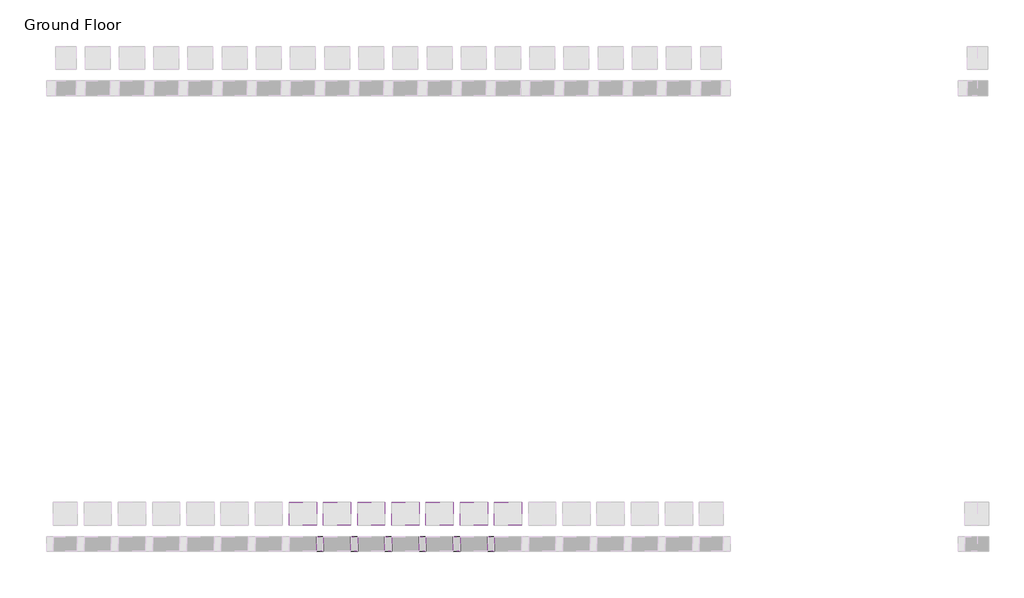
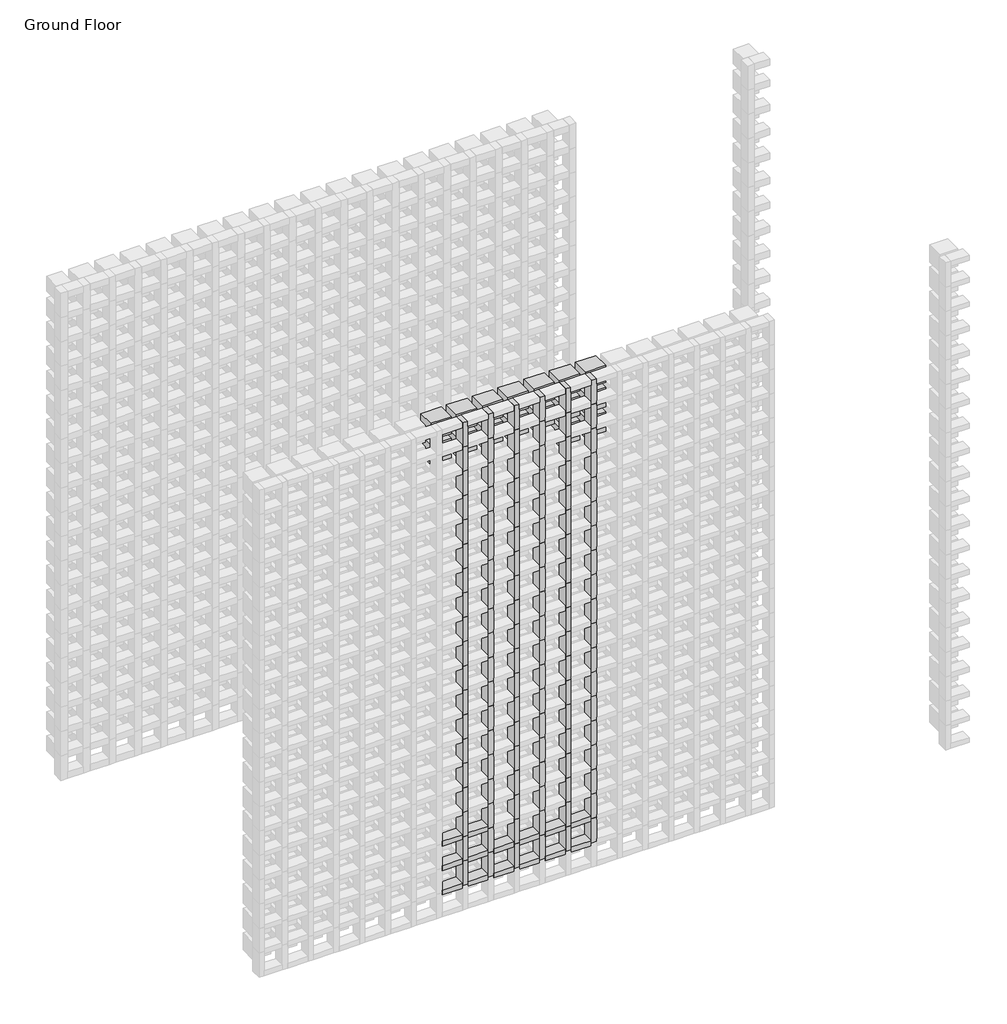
# One storey, part 69 of 350: 128 members, 16 plates.
"""IFC4 building model written with IfcOpenShell, lengths in millimetres."""

from ifc_helpers import new_model, si_unit, origin, place, context, project, spatial, transform, mapped, element, save
from components import rectangular_mullion_5b501421, rectangular_mullion_f28dea33, empty_system_panel_empty_a57e421f, empty_system_panel_empty_fe50b430

model = new_model("IFC4")

# Units and contexts
model_context = context("Model", 3, world=origin())
ifc_project = project(units=[si_unit("LENGTHUNIT", "METRE", prefix="MILLI")], contexts=[model_context])

# Site, building, storey
site = spatial("IfcSite", under=ifc_project)
building = spatial("IfcBuilding", under=site)
storey = spatial("IfcBuildingStorey", under=building, Name="Ground Floor", Elevation=0.0)

# Members
placement = place(None, origin())
rectangular_mullion_shape = rectangular_mullion_5b501421(model_context)
element("IfcMember", 1, ObjectType="Rectangular Mullion : Batten_Timber_Modinex_Austratus_Grid_Fascia_30x65_Hemlock", at=placement, inside=storey, context=model_context, shape_type="MappedRepresentation", body=[
    mapped(rectangular_mullion_shape, transform((11116.4361642, 38968.2978302, 150.0), x_axis=(1.0, 0.0, 0.0), y_axis=(0.0, -1.0, 0.0), z_axis=(0.0, 0.0, -1.0))),
])
element("IfcMember", 2, ObjectType="Rectangular Mullion : Batten_Timber_Modinex_Austratus_Grid_Fascia_30x65_Hemlock", at=placement, inside=storey, context=model_context, shape_type="MappedRepresentation", body=[
    mapped(rectangular_mullion_shape, transform((11116.4361642, 38968.2978302, 300.0), x_axis=(1.0, 0.0, 0.0), y_axis=(0.0, -1.0, 0.0), z_axis=(0.0, 0.0, -1.0))),
])
element("IfcMember", 3, ObjectType="Rectangular Mullion : Batten_Timber_Modinex_Austratus_Grid_Fascia_30x65_Hemlock", at=placement, inside=storey, context=model_context, shape_type="MappedRepresentation", body=[
    mapped(rectangular_mullion_shape, transform((11116.4361642, 38968.2978302, 450.0), x_axis=(1.0, 0.0, 0.0), y_axis=(0.0, -1.0, 0.0), z_axis=(0.0, 0.0, -1.0))),
])
element("IfcMember", 4, ObjectType="Rectangular Mullion : Batten_Timber_Modinex_Austratus_Grid_Fascia_30x65_Hemlock", at=placement, inside=storey, context=model_context, shape_type="MappedRepresentation", body=[
    mapped(rectangular_mullion_shape, transform((11116.4361642, 38968.2978302, 600.0), x_axis=(1.0, 0.0, 0.0), y_axis=(0.0, -1.0, 0.0), z_axis=(0.0, 0.0, -1.0))),
])
element("IfcMember", 5, ObjectType="Rectangular Mullion : Batten_Timber_Modinex_Austratus_Grid_Fascia_30x65_Hemlock", at=placement, inside=storey, context=model_context, shape_type="MappedRepresentation", body=[
    mapped(rectangular_mullion_shape, transform((11116.4361642, 38968.2978302, 750.0), x_axis=(1.0, 0.0, 0.0), y_axis=(0.0, -1.0, 0.0), z_axis=(0.0, 0.0, -1.0))),
])
element("IfcMember", 6, ObjectType="Rectangular Mullion : Batten_Timber_Modinex_Austratus_Grid_Fascia_30x65_Hemlock", at=placement, inside=storey, context=model_context, shape_type="MappedRepresentation", body=[
    mapped(rectangular_mullion_shape, transform((11116.4361642, 38968.2978302, 900.0), x_axis=(1.0, 0.0, 0.0), y_axis=(0.0, -1.0, 0.0), z_axis=(0.0, 0.0, -1.0))),
])
element("IfcMember", 7, ObjectType="Rectangular Mullion : Batten_Timber_Modinex_Austratus_Grid_Fascia_30x65_Hemlock", at=placement, inside=storey, context=model_context, shape_type="MappedRepresentation", body=[
    mapped(rectangular_mullion_shape, transform((11116.4361642, 38968.2978302, 1050.0), x_axis=(1.0, 0.0, 0.0), y_axis=(0.0, -1.0, 0.0), z_axis=(0.0, 0.0, -1.0))),
])
element("IfcMember", 8, ObjectType="Rectangular Mullion : Batten_Timber_Modinex_Austratus_Grid_Fascia_30x65_Hemlock", at=placement, inside=storey, context=model_context, shape_type="MappedRepresentation", body=[
    mapped(rectangular_mullion_shape, transform((11116.4361642, 38968.2978302, 1200.0), x_axis=(1.0, 0.0, 0.0), y_axis=(0.0, -1.0, 0.0), z_axis=(0.0, 0.0, -1.0))),
])
element("IfcMember", 9, ObjectType="Rectangular Mullion : Batten_Timber_Modinex_Austratus_Grid_Fascia_30x65_Hemlock", at=placement, inside=storey, context=model_context, shape_type="MappedRepresentation", body=[
    mapped(rectangular_mullion_shape, transform((11116.4361642, 38968.2978302, 1350.0), x_axis=(1.0, 0.0, 0.0), y_axis=(0.0, -1.0, 0.0), z_axis=(0.0, 0.0, -1.0))),
])
element("IfcMember", 10, ObjectType="Rectangular Mullion : Batten_Timber_Modinex_Austratus_Grid_Fascia_30x65_Hemlock", at=placement, inside=storey, context=model_context, shape_type="MappedRepresentation", body=[
    mapped(rectangular_mullion_shape, transform((11116.4361642, 38968.2978302, 1500.0), x_axis=(1.0, 0.0, 0.0), y_axis=(0.0, -1.0, 0.0), z_axis=(0.0, 0.0, -1.0))),
])
element("IfcMember", 11, ObjectType="Rectangular Mullion : Batten_Timber_Modinex_Austratus_Grid_Fascia_30x65_Hemlock", at=placement, inside=storey, context=model_context, shape_type="MappedRepresentation", body=[
    mapped(rectangular_mullion_shape, transform((11116.4361642, 38968.2978302, 1650.0), x_axis=(1.0, 0.0, 0.0), y_axis=(0.0, -1.0, 0.0), z_axis=(0.0, 0.0, -1.0))),
])
element("IfcMember", 12, ObjectType="Rectangular Mullion : Batten_Timber_Modinex_Austratus_Grid_Fascia_30x65_Hemlock", at=placement, inside=storey, context=model_context, shape_type="MappedRepresentation", body=[
    mapped(rectangular_mullion_shape, transform((11116.4361642, 38968.2978302, 1800.0), x_axis=(1.0, 0.0, 0.0), y_axis=(0.0, -1.0, 0.0), z_axis=(0.0, 0.0, -1.0))),
])
element("IfcMember", 13, ObjectType="Rectangular Mullion : Batten_Timber_Modinex_Austratus_Grid_Fascia_30x65_Hemlock", at=placement, inside=storey, context=model_context, shape_type="MappedRepresentation", body=[
    mapped(rectangular_mullion_shape, transform((11116.4361642, 38968.2978302, 1950.0), x_axis=(1.0, 0.0, 0.0), y_axis=(0.0, -1.0, 0.0), z_axis=(0.0, 0.0, -1.0))),
])
element("IfcMember", 14, ObjectType="Rectangular Mullion : Batten_Timber_Modinex_Austratus_Grid_Fascia_30x65_Hemlock", at=placement, inside=storey, context=model_context, shape_type="MappedRepresentation", body=[
    mapped(rectangular_mullion_shape, transform((11116.4361642, 38968.2978302, 2100.0), x_axis=(1.0, 0.0, 0.0), y_axis=(0.0, -1.0, 0.0), z_axis=(0.0, 0.0, -1.0))),
])
element("IfcMember", 15, ObjectType="Rectangular Mullion : Batten_Timber_Modinex_Austratus_Grid_Fascia_30x65_Hemlock", at=placement, inside=storey, context=model_context, shape_type="MappedRepresentation", body=[
    mapped(rectangular_mullion_shape, transform((11116.4361642, 38968.2978302, 2250.0), x_axis=(1.0, 0.0, 0.0), y_axis=(0.0, -1.0, 0.0), z_axis=(0.0, 0.0, -1.0))),
])
element("IfcMember", 16, ObjectType="Rectangular Mullion : Batten_Timber_Modinex_Austratus_Grid_Fascia_30x65_Hemlock", at=placement, inside=storey, context=model_context, shape_type="MappedRepresentation", body=[
    mapped(rectangular_mullion_shape, transform((11116.4361642, 38968.2978302, 2400.0), x_axis=(1.0, 0.0, 0.0), y_axis=(0.0, -1.0, 0.0), z_axis=(0.0, 0.0, -1.0))),
])
element("IfcMember", 17, ObjectType="Rectangular Mullion : Batten_Timber_Modinex_Austratus_Grid_Fascia_30x65_Hemlock", at=placement, inside=storey, context=model_context, shape_type="MappedRepresentation", body=[
    mapped(rectangular_mullion_shape, transform((11116.4361642, 38968.2978302, 2550.0), x_axis=(1.0, 0.0, 0.0), y_axis=(0.0, -1.0, 0.0), z_axis=(0.0, 0.0, -1.0))),
])
element("IfcMember", 18, ObjectType="Rectangular Mullion : Batten_Timber_Modinex_Austratus_Grid_Fascia_30x65_Hemlock", at=placement, inside=storey, context=model_context, shape_type="MappedRepresentation", body=[
    mapped(rectangular_mullion_shape, transform((11116.4361642, 38968.2978302, 2700.0), x_axis=(1.0, 0.0, 0.0), y_axis=(0.0, -1.0, 0.0), z_axis=(0.0, 0.0, -1.0))),
])
element("IfcMember", 19, ObjectType="Rectangular Mullion : Batten_Timber_Modinex_Austratus_Grid_Fascia_30x65_Hemlock", at=placement, inside=storey, context=model_context, shape_type="MappedRepresentation", body=[
    mapped(rectangular_mullion_shape, transform((11266.4361642, 38968.2978302, 150.0), x_axis=(1.0, 0.0, 0.0), y_axis=(0.0, -1.0, 0.0), z_axis=(0.0, 0.0, -1.0))),
])
element("IfcMember", 20, ObjectType="Rectangular Mullion : Batten_Timber_Modinex_Austratus_Grid_Fascia_30x65_Hemlock", at=placement, inside=storey, context=model_context, shape_type="MappedRepresentation", body=[
    mapped(rectangular_mullion_shape, transform((11266.4361642, 38968.2978302, 300.0), x_axis=(1.0, 0.0, 0.0), y_axis=(0.0, -1.0, 0.0), z_axis=(0.0, 0.0, -1.0))),
])
element("IfcMember", 21, ObjectType="Rectangular Mullion : Batten_Timber_Modinex_Austratus_Grid_Fascia_30x65_Hemlock", at=placement, inside=storey, context=model_context, shape_type="MappedRepresentation", body=[
    mapped(rectangular_mullion_shape, transform((11266.4361642, 38968.2978302, 450.0), x_axis=(1.0, 0.0, 0.0), y_axis=(0.0, -1.0, 0.0), z_axis=(0.0, 0.0, -1.0))),
])
element("IfcMember", 22, ObjectType="Rectangular Mullion : Batten_Timber_Modinex_Austratus_Grid_Fascia_30x65_Hemlock", at=placement, inside=storey, context=model_context, shape_type="MappedRepresentation", body=[
    mapped(rectangular_mullion_shape, transform((11266.4361642, 38968.2978302, 600.0), x_axis=(1.0, 0.0, 0.0), y_axis=(0.0, -1.0, 0.0), z_axis=(0.0, 0.0, -1.0))),
])
element("IfcMember", 23, ObjectType="Rectangular Mullion : Batten_Timber_Modinex_Austratus_Grid_Fascia_30x65_Hemlock", at=placement, inside=storey, context=model_context, shape_type="MappedRepresentation", body=[
    mapped(rectangular_mullion_shape, transform((11266.4361642, 38968.2978302, 750.0), x_axis=(1.0, 0.0, 0.0), y_axis=(0.0, -1.0, 0.0), z_axis=(0.0, 0.0, -1.0))),
])
element("IfcMember", 24, ObjectType="Rectangular Mullion : Batten_Timber_Modinex_Austratus_Grid_Fascia_30x65_Hemlock", at=placement, inside=storey, context=model_context, shape_type="MappedRepresentation", body=[
    mapped(rectangular_mullion_shape, transform((11266.4361642, 38968.2978302, 900.0), x_axis=(1.0, 0.0, 0.0), y_axis=(0.0, -1.0, 0.0), z_axis=(0.0, 0.0, -1.0))),
])
element("IfcMember", 25, ObjectType="Rectangular Mullion : Batten_Timber_Modinex_Austratus_Grid_Fascia_30x65_Hemlock", at=placement, inside=storey, context=model_context, shape_type="MappedRepresentation", body=[
    mapped(rectangular_mullion_shape, transform((11266.4361642, 38968.2978302, 1050.0), x_axis=(1.0, 0.0, 0.0), y_axis=(0.0, -1.0, 0.0), z_axis=(0.0, 0.0, -1.0))),
])
element("IfcMember", 26, ObjectType="Rectangular Mullion : Batten_Timber_Modinex_Austratus_Grid_Fascia_30x65_Hemlock", at=placement, inside=storey, context=model_context, shape_type="MappedRepresentation", body=[
    mapped(rectangular_mullion_shape, transform((11266.4361642, 38968.2978302, 1200.0), x_axis=(1.0, 0.0, 0.0), y_axis=(0.0, -1.0, 0.0), z_axis=(0.0, 0.0, -1.0))),
])
element("IfcMember", 27, ObjectType="Rectangular Mullion : Batten_Timber_Modinex_Austratus_Grid_Fascia_30x65_Hemlock", at=placement, inside=storey, context=model_context, shape_type="MappedRepresentation", body=[
    mapped(rectangular_mullion_shape, transform((11266.4361642, 38968.2978302, 1350.0), x_axis=(1.0, 0.0, 0.0), y_axis=(0.0, -1.0, 0.0), z_axis=(0.0, 0.0, -1.0))),
])
element("IfcMember", 28, ObjectType="Rectangular Mullion : Batten_Timber_Modinex_Austratus_Grid_Fascia_30x65_Hemlock", at=placement, inside=storey, context=model_context, shape_type="MappedRepresentation", body=[
    mapped(rectangular_mullion_shape, transform((11266.4361642, 38968.2978302, 1500.0), x_axis=(1.0, 0.0, 0.0), y_axis=(0.0, -1.0, 0.0), z_axis=(0.0, 0.0, -1.0))),
])
element("IfcMember", 29, ObjectType="Rectangular Mullion : Batten_Timber_Modinex_Austratus_Grid_Fascia_30x65_Hemlock", at=placement, inside=storey, context=model_context, shape_type="MappedRepresentation", body=[
    mapped(rectangular_mullion_shape, transform((11266.4361642, 38968.2978302, 1650.0), x_axis=(1.0, 0.0, 0.0), y_axis=(0.0, -1.0, 0.0), z_axis=(0.0, 0.0, -1.0))),
])
element("IfcMember", 30, ObjectType="Rectangular Mullion : Batten_Timber_Modinex_Austratus_Grid_Fascia_30x65_Hemlock", at=placement, inside=storey, context=model_context, shape_type="MappedRepresentation", body=[
    mapped(rectangular_mullion_shape, transform((11266.4361642, 38968.2978302, 1800.0), x_axis=(1.0, 0.0, 0.0), y_axis=(0.0, -1.0, 0.0), z_axis=(0.0, 0.0, -1.0))),
])
element("IfcMember", 31, ObjectType="Rectangular Mullion : Batten_Timber_Modinex_Austratus_Grid_Fascia_30x65_Hemlock", at=placement, inside=storey, context=model_context, shape_type="MappedRepresentation", body=[
    mapped(rectangular_mullion_shape, transform((11266.4361642, 38968.2978302, 1950.0), x_axis=(1.0, 0.0, 0.0), y_axis=(0.0, -1.0, 0.0), z_axis=(0.0, 0.0, -1.0))),
])
element("IfcMember", 32, ObjectType="Rectangular Mullion : Batten_Timber_Modinex_Austratus_Grid_Fascia_30x65_Hemlock", at=placement, inside=storey, context=model_context, shape_type="MappedRepresentation", body=[
    mapped(rectangular_mullion_shape, transform((11266.4361642, 38968.2978302, 2100.0), x_axis=(1.0, 0.0, 0.0), y_axis=(0.0, -1.0, 0.0), z_axis=(0.0, 0.0, -1.0))),
])
element("IfcMember", 33, ObjectType="Rectangular Mullion : Batten_Timber_Modinex_Austratus_Grid_Fascia_30x65_Hemlock", at=placement, inside=storey, context=model_context, shape_type="MappedRepresentation", body=[
    mapped(rectangular_mullion_shape, transform((11266.4361642, 38968.2978302, 2250.0), x_axis=(1.0, 0.0, 0.0), y_axis=(0.0, -1.0, 0.0), z_axis=(0.0, 0.0, -1.0))),
])
element("IfcMember", 34, ObjectType="Rectangular Mullion : Batten_Timber_Modinex_Austratus_Grid_Fascia_30x65_Hemlock", at=placement, inside=storey, context=model_context, shape_type="MappedRepresentation", body=[
    mapped(rectangular_mullion_shape, transform((11266.4361642, 38968.2978302, 2400.0), x_axis=(1.0, 0.0, 0.0), y_axis=(0.0, -1.0, 0.0), z_axis=(0.0, 0.0, -1.0))),
])
element("IfcMember", 35, ObjectType="Rectangular Mullion : Batten_Timber_Modinex_Austratus_Grid_Fascia_30x65_Hemlock", at=placement, inside=storey, context=model_context, shape_type="MappedRepresentation", body=[
    mapped(rectangular_mullion_shape, transform((11266.4361642, 38968.2978302, 2550.0), x_axis=(1.0, 0.0, 0.0), y_axis=(0.0, -1.0, 0.0), z_axis=(0.0, 0.0, -1.0))),
])
element("IfcMember", 36, ObjectType="Rectangular Mullion : Batten_Timber_Modinex_Austratus_Grid_Fascia_30x65_Hemlock", at=placement, inside=storey, context=model_context, shape_type="MappedRepresentation", body=[
    mapped(rectangular_mullion_shape, transform((11266.4361642, 38968.2978302, 2700.0), x_axis=(1.0, 0.0, 0.0), y_axis=(0.0, -1.0, 0.0), z_axis=(0.0, 0.0, -1.0))),
])
element("IfcMember", 37, ObjectType="Rectangular Mullion : Batten_Timber_Modinex_Austratus_Grid_Fascia_30x65_Hemlock", at=placement, inside=storey, context=model_context, shape_type="MappedRepresentation", body=[
    mapped(rectangular_mullion_shape, transform((11416.4361642, 38968.2978302, 150.0), x_axis=(1.0, 0.0, 0.0), y_axis=(0.0, -1.0, 0.0), z_axis=(0.0, 0.0, -1.0))),
])
element("IfcMember", 38, ObjectType="Rectangular Mullion : Batten_Timber_Modinex_Austratus_Grid_Fascia_30x65_Hemlock", at=placement, inside=storey, context=model_context, shape_type="MappedRepresentation", body=[
    mapped(rectangular_mullion_shape, transform((11416.4361642, 38968.2978302, 300.0), x_axis=(1.0, 0.0, 0.0), y_axis=(0.0, -1.0, 0.0), z_axis=(0.0, 0.0, -1.0))),
])
element("IfcMember", 39, ObjectType="Rectangular Mullion : Batten_Timber_Modinex_Austratus_Grid_Fascia_30x65_Hemlock", at=placement, inside=storey, context=model_context, shape_type="MappedRepresentation", body=[
    mapped(rectangular_mullion_shape, transform((11416.4361642, 38968.2978302, 450.0), x_axis=(1.0, 0.0, 0.0), y_axis=(0.0, -1.0, 0.0), z_axis=(0.0, 0.0, -1.0))),
])
element("IfcMember", 40, ObjectType="Rectangular Mullion : Batten_Timber_Modinex_Austratus_Grid_Fascia_30x65_Hemlock", at=placement, inside=storey, context=model_context, shape_type="MappedRepresentation", body=[
    mapped(rectangular_mullion_shape, transform((11416.4361642, 38968.2978302, 600.0), x_axis=(1.0, 0.0, 0.0), y_axis=(0.0, -1.0, 0.0), z_axis=(0.0, 0.0, -1.0))),
])
element("IfcMember", 41, ObjectType="Rectangular Mullion : Batten_Timber_Modinex_Austratus_Grid_Fascia_30x65_Hemlock", at=placement, inside=storey, context=model_context, shape_type="MappedRepresentation", body=[
    mapped(rectangular_mullion_shape, transform((11416.4361642, 38968.2978302, 750.0), x_axis=(1.0, 0.0, 0.0), y_axis=(0.0, -1.0, 0.0), z_axis=(0.0, 0.0, -1.0))),
])
element("IfcMember", 42, ObjectType="Rectangular Mullion : Batten_Timber_Modinex_Austratus_Grid_Fascia_30x65_Hemlock", at=placement, inside=storey, context=model_context, shape_type="MappedRepresentation", body=[
    mapped(rectangular_mullion_shape, transform((11416.4361642, 38968.2978302, 900.0), x_axis=(1.0, 0.0, 0.0), y_axis=(0.0, -1.0, 0.0), z_axis=(0.0, 0.0, -1.0))),
])
element("IfcMember", 43, ObjectType="Rectangular Mullion : Batten_Timber_Modinex_Austratus_Grid_Fascia_30x65_Hemlock", at=placement, inside=storey, context=model_context, shape_type="MappedRepresentation", body=[
    mapped(rectangular_mullion_shape, transform((11416.4361642, 38968.2978302, 1050.0), x_axis=(1.0, 0.0, 0.0), y_axis=(0.0, -1.0, 0.0), z_axis=(0.0, 0.0, -1.0))),
])
element("IfcMember", 44, ObjectType="Rectangular Mullion : Batten_Timber_Modinex_Austratus_Grid_Fascia_30x65_Hemlock", at=placement, inside=storey, context=model_context, shape_type="MappedRepresentation", body=[
    mapped(rectangular_mullion_shape, transform((11416.4361642, 38968.2978302, 1200.0), x_axis=(1.0, 0.0, 0.0), y_axis=(0.0, -1.0, 0.0), z_axis=(0.0, 0.0, -1.0))),
])
element("IfcMember", 45, ObjectType="Rectangular Mullion : Batten_Timber_Modinex_Austratus_Grid_Fascia_30x65_Hemlock", at=placement, inside=storey, context=model_context, shape_type="MappedRepresentation", body=[
    mapped(rectangular_mullion_shape, transform((11416.4361642, 38968.2978302, 1350.0), x_axis=(1.0, 0.0, 0.0), y_axis=(0.0, -1.0, 0.0), z_axis=(0.0, 0.0, -1.0))),
])
element("IfcMember", 46, ObjectType="Rectangular Mullion : Batten_Timber_Modinex_Austratus_Grid_Fascia_30x65_Hemlock", at=placement, inside=storey, context=model_context, shape_type="MappedRepresentation", body=[
    mapped(rectangular_mullion_shape, transform((11416.4361642, 38968.2978302, 1500.0), x_axis=(1.0, 0.0, 0.0), y_axis=(0.0, -1.0, 0.0), z_axis=(0.0, 0.0, -1.0))),
])
element("IfcMember", 47, ObjectType="Rectangular Mullion : Batten_Timber_Modinex_Austratus_Grid_Fascia_30x65_Hemlock", at=placement, inside=storey, context=model_context, shape_type="MappedRepresentation", body=[
    mapped(rectangular_mullion_shape, transform((11416.4361642, 38968.2978302, 1650.0), x_axis=(1.0, 0.0, 0.0), y_axis=(0.0, -1.0, 0.0), z_axis=(0.0, 0.0, -1.0))),
])
element("IfcMember", 48, ObjectType="Rectangular Mullion : Batten_Timber_Modinex_Austratus_Grid_Fascia_30x65_Hemlock", at=placement, inside=storey, context=model_context, shape_type="MappedRepresentation", body=[
    mapped(rectangular_mullion_shape, transform((11416.4361642, 38968.2978302, 1800.0), x_axis=(1.0, 0.0, 0.0), y_axis=(0.0, -1.0, 0.0), z_axis=(0.0, 0.0, -1.0))),
])
element("IfcMember", 49, ObjectType="Rectangular Mullion : Batten_Timber_Modinex_Austratus_Grid_Fascia_30x65_Hemlock", at=placement, inside=storey, context=model_context, shape_type="MappedRepresentation", body=[
    mapped(rectangular_mullion_shape, transform((11416.4361642, 38968.2978302, 1950.0), x_axis=(1.0, 0.0, 0.0), y_axis=(0.0, -1.0, 0.0), z_axis=(0.0, 0.0, -1.0))),
])
element("IfcMember", 50, ObjectType="Rectangular Mullion : Batten_Timber_Modinex_Austratus_Grid_Fascia_30x65_Hemlock", at=placement, inside=storey, context=model_context, shape_type="MappedRepresentation", body=[
    mapped(rectangular_mullion_shape, transform((11416.4361642, 38968.2978302, 2100.0), x_axis=(1.0, 0.0, 0.0), y_axis=(0.0, -1.0, 0.0), z_axis=(0.0, 0.0, -1.0))),
])
element("IfcMember", 51, ObjectType="Rectangular Mullion : Batten_Timber_Modinex_Austratus_Grid_Fascia_30x65_Hemlock", at=placement, inside=storey, context=model_context, shape_type="MappedRepresentation", body=[
    mapped(rectangular_mullion_shape, transform((11416.4361642, 38968.2978302, 2250.0), x_axis=(1.0, 0.0, 0.0), y_axis=(0.0, -1.0, 0.0), z_axis=(0.0, 0.0, -1.0))),
])
element("IfcMember", 52, ObjectType="Rectangular Mullion : Batten_Timber_Modinex_Austratus_Grid_Fascia_30x65_Hemlock", at=placement, inside=storey, context=model_context, shape_type="MappedRepresentation", body=[
    mapped(rectangular_mullion_shape, transform((11416.4361642, 38968.2978302, 2400.0), x_axis=(1.0, 0.0, 0.0), y_axis=(0.0, -1.0, 0.0), z_axis=(0.0, 0.0, -1.0))),
])
element("IfcMember", 53, ObjectType="Rectangular Mullion : Batten_Timber_Modinex_Austratus_Grid_Fascia_30x65_Hemlock", at=placement, inside=storey, context=model_context, shape_type="MappedRepresentation", body=[
    mapped(rectangular_mullion_shape, transform((11416.4361642, 38968.2978302, 2550.0), x_axis=(1.0, 0.0, 0.0), y_axis=(0.0, -1.0, 0.0), z_axis=(0.0, 0.0, -1.0))),
])
element("IfcMember", 54, ObjectType="Rectangular Mullion : Batten_Timber_Modinex_Austratus_Grid_Fascia_30x65_Hemlock", at=placement, inside=storey, context=model_context, shape_type="MappedRepresentation", body=[
    mapped(rectangular_mullion_shape, transform((11416.4361642, 38968.2978302, 2700.0), x_axis=(1.0, 0.0, 0.0), y_axis=(0.0, -1.0, 0.0), z_axis=(0.0, 0.0, -1.0))),
])
element("IfcMember", 55, ObjectType="Rectangular Mullion : Batten_Timber_Modinex_Austratus_Grid_Fascia_30x65_Hemlock", at=placement, inside=storey, context=model_context, shape_type="MappedRepresentation", body=[
    mapped(rectangular_mullion_shape, transform((11566.4361642, 38968.2978302, 150.0), x_axis=(1.0, 0.0, 0.0), y_axis=(0.0, -1.0, 0.0), z_axis=(0.0, 0.0, -1.0))),
])
element("IfcMember", 56, ObjectType="Rectangular Mullion : Batten_Timber_Modinex_Austratus_Grid_Fascia_30x65_Hemlock", at=placement, inside=storey, context=model_context, shape_type="MappedRepresentation", body=[
    mapped(rectangular_mullion_shape, transform((11566.4361642, 38968.2978302, 300.0), x_axis=(1.0, 0.0, 0.0), y_axis=(0.0, -1.0, 0.0), z_axis=(0.0, 0.0, -1.0))),
])
element("IfcMember", 57, ObjectType="Rectangular Mullion : Batten_Timber_Modinex_Austratus_Grid_Fascia_30x65_Hemlock", at=placement, inside=storey, context=model_context, shape_type="MappedRepresentation", body=[
    mapped(rectangular_mullion_shape, transform((11566.4361642, 38968.2978302, 450.0), x_axis=(1.0, 0.0, 0.0), y_axis=(0.0, -1.0, 0.0), z_axis=(0.0, 0.0, -1.0))),
])
element("IfcMember", 58, ObjectType="Rectangular Mullion : Batten_Timber_Modinex_Austratus_Grid_Fascia_30x65_Hemlock", at=placement, inside=storey, context=model_context, shape_type="MappedRepresentation", body=[
    mapped(rectangular_mullion_shape, transform((11566.4361642, 38968.2978302, 600.0), x_axis=(1.0, 0.0, 0.0), y_axis=(0.0, -1.0, 0.0), z_axis=(0.0, 0.0, -1.0))),
])
element("IfcMember", 59, ObjectType="Rectangular Mullion : Batten_Timber_Modinex_Austratus_Grid_Fascia_30x65_Hemlock", at=placement, inside=storey, context=model_context, shape_type="MappedRepresentation", body=[
    mapped(rectangular_mullion_shape, transform((11566.4361642, 38968.2978302, 750.0), x_axis=(1.0, 0.0, 0.0), y_axis=(0.0, -1.0, 0.0), z_axis=(0.0, 0.0, -1.0))),
])
element("IfcMember", 60, ObjectType="Rectangular Mullion : Batten_Timber_Modinex_Austratus_Grid_Fascia_30x65_Hemlock", at=placement, inside=storey, context=model_context, shape_type="MappedRepresentation", body=[
    mapped(rectangular_mullion_shape, transform((11566.4361642, 38968.2978302, 900.0), x_axis=(1.0, 0.0, 0.0), y_axis=(0.0, -1.0, 0.0), z_axis=(0.0, 0.0, -1.0))),
])
element("IfcMember", 61, ObjectType="Rectangular Mullion : Batten_Timber_Modinex_Austratus_Grid_Fascia_30x65_Hemlock", at=placement, inside=storey, context=model_context, shape_type="MappedRepresentation", body=[
    mapped(rectangular_mullion_shape, transform((11566.4361642, 38968.2978302, 1050.0), x_axis=(1.0, 0.0, 0.0), y_axis=(0.0, -1.0, 0.0), z_axis=(0.0, 0.0, -1.0))),
])
element("IfcMember", 62, ObjectType="Rectangular Mullion : Batten_Timber_Modinex_Austratus_Grid_Fascia_30x65_Hemlock", at=placement, inside=storey, context=model_context, shape_type="MappedRepresentation", body=[
    mapped(rectangular_mullion_shape, transform((11566.4361642, 38968.2978302, 1200.0), x_axis=(1.0, 0.0, 0.0), y_axis=(0.0, -1.0, 0.0), z_axis=(0.0, 0.0, -1.0))),
])
element("IfcMember", 63, ObjectType="Rectangular Mullion : Batten_Timber_Modinex_Austratus_Grid_Fascia_30x65_Hemlock", at=placement, inside=storey, context=model_context, shape_type="MappedRepresentation", body=[
    mapped(rectangular_mullion_shape, transform((11566.4361642, 38968.2978302, 1350.0), x_axis=(1.0, 0.0, 0.0), y_axis=(0.0, -1.0, 0.0), z_axis=(0.0, 0.0, -1.0))),
])
element("IfcMember", 64, ObjectType="Rectangular Mullion : Batten_Timber_Modinex_Austratus_Grid_Fascia_30x65_Hemlock", at=placement, inside=storey, context=model_context, shape_type="MappedRepresentation", body=[
    mapped(rectangular_mullion_shape, transform((11566.4361642, 38968.2978302, 1500.0), x_axis=(1.0, 0.0, 0.0), y_axis=(0.0, -1.0, 0.0), z_axis=(0.0, 0.0, -1.0))),
])
element("IfcMember", 65, ObjectType="Rectangular Mullion : Batten_Timber_Modinex_Austratus_Grid_Fascia_30x65_Hemlock", at=placement, inside=storey, context=model_context, shape_type="MappedRepresentation", body=[
    mapped(rectangular_mullion_shape, transform((11566.4361642, 38968.2978302, 1650.0), x_axis=(1.0, 0.0, 0.0), y_axis=(0.0, -1.0, 0.0), z_axis=(0.0, 0.0, -1.0))),
])
element("IfcMember", 66, ObjectType="Rectangular Mullion : Batten_Timber_Modinex_Austratus_Grid_Fascia_30x65_Hemlock", at=placement, inside=storey, context=model_context, shape_type="MappedRepresentation", body=[
    mapped(rectangular_mullion_shape, transform((11566.4361642, 38968.2978302, 1800.0), x_axis=(1.0, 0.0, 0.0), y_axis=(0.0, -1.0, 0.0), z_axis=(0.0, 0.0, -1.0))),
])
element("IfcMember", 67, ObjectType="Rectangular Mullion : Batten_Timber_Modinex_Austratus_Grid_Fascia_30x65_Hemlock", at=placement, inside=storey, context=model_context, shape_type="MappedRepresentation", body=[
    mapped(rectangular_mullion_shape, transform((11566.4361642, 38968.2978302, 1950.0), x_axis=(1.0, 0.0, 0.0), y_axis=(0.0, -1.0, 0.0), z_axis=(0.0, 0.0, -1.0))),
])
element("IfcMember", 68, ObjectType="Rectangular Mullion : Batten_Timber_Modinex_Austratus_Grid_Fascia_30x65_Hemlock", at=placement, inside=storey, context=model_context, shape_type="MappedRepresentation", body=[
    mapped(rectangular_mullion_shape, transform((11566.4361642, 38968.2978302, 2100.0), x_axis=(1.0, 0.0, 0.0), y_axis=(0.0, -1.0, 0.0), z_axis=(0.0, 0.0, -1.0))),
])
element("IfcMember", 69, ObjectType="Rectangular Mullion : Batten_Timber_Modinex_Austratus_Grid_Fascia_30x65_Hemlock", at=placement, inside=storey, context=model_context, shape_type="MappedRepresentation", body=[
    mapped(rectangular_mullion_shape, transform((11566.4361642, 38968.2978302, 2250.0), x_axis=(1.0, 0.0, 0.0), y_axis=(0.0, -1.0, 0.0), z_axis=(0.0, 0.0, -1.0))),
])
element("IfcMember", 70, ObjectType="Rectangular Mullion : Batten_Timber_Modinex_Austratus_Grid_Fascia_30x65_Hemlock", at=placement, inside=storey, context=model_context, shape_type="MappedRepresentation", body=[
    mapped(rectangular_mullion_shape, transform((11566.4361642, 38968.2978302, 2400.0), x_axis=(1.0, 0.0, 0.0), y_axis=(0.0, -1.0, 0.0), z_axis=(0.0, 0.0, -1.0))),
])
element("IfcMember", 71, ObjectType="Rectangular Mullion : Batten_Timber_Modinex_Austratus_Grid_Fascia_30x65_Hemlock", at=placement, inside=storey, context=model_context, shape_type="MappedRepresentation", body=[
    mapped(rectangular_mullion_shape, transform((11566.4361642, 38968.2978302, 2550.0), x_axis=(1.0, 0.0, 0.0), y_axis=(0.0, -1.0, 0.0), z_axis=(0.0, 0.0, -1.0))),
])
element("IfcMember", 72, ObjectType="Rectangular Mullion : Batten_Timber_Modinex_Austratus_Grid_Fascia_30x65_Hemlock", at=placement, inside=storey, context=model_context, shape_type="MappedRepresentation", body=[
    mapped(rectangular_mullion_shape, transform((11566.4361642, 38968.2978302, 2700.0), x_axis=(1.0, 0.0, 0.0), y_axis=(0.0, -1.0, 0.0), z_axis=(0.0, 0.0, -1.0))),
])
element("IfcMember", 73, ObjectType="Rectangular Mullion : Batten_Timber_Modinex_Austratus_Grid_Fascia_30x65_Hemlock", at=placement, inside=storey, context=model_context, shape_type="MappedRepresentation", body=[
    mapped(rectangular_mullion_shape, transform((11716.4361642, 38968.2978302, 150.0), x_axis=(1.0, 0.0, 0.0), y_axis=(0.0, -1.0, 0.0), z_axis=(0.0, 0.0, -1.0))),
])
element("IfcMember", 74, ObjectType="Rectangular Mullion : Batten_Timber_Modinex_Austratus_Grid_Fascia_30x65_Hemlock", at=placement, inside=storey, context=model_context, shape_type="MappedRepresentation", body=[
    mapped(rectangular_mullion_shape, transform((11716.4361642, 38968.2978302, 300.0), x_axis=(1.0, 0.0, 0.0), y_axis=(0.0, -1.0, 0.0), z_axis=(0.0, 0.0, -1.0))),
])
element("IfcMember", 75, ObjectType="Rectangular Mullion : Batten_Timber_Modinex_Austratus_Grid_Fascia_30x65_Hemlock", at=placement, inside=storey, context=model_context, shape_type="MappedRepresentation", body=[
    mapped(rectangular_mullion_shape, transform((11716.4361642, 38968.2978302, 450.0), x_axis=(1.0, 0.0, 0.0), y_axis=(0.0, -1.0, 0.0), z_axis=(0.0, 0.0, -1.0))),
])
element("IfcMember", 76, ObjectType="Rectangular Mullion : Batten_Timber_Modinex_Austratus_Grid_Fascia_30x65_Hemlock", at=placement, inside=storey, context=model_context, shape_type="MappedRepresentation", body=[
    mapped(rectangular_mullion_shape, transform((11716.4361642, 38968.2978302, 600.0), x_axis=(1.0, 0.0, 0.0), y_axis=(0.0, -1.0, 0.0), z_axis=(0.0, 0.0, -1.0))),
])
element("IfcMember", 77, ObjectType="Rectangular Mullion : Batten_Timber_Modinex_Austratus_Grid_Fascia_30x65_Hemlock", at=placement, inside=storey, context=model_context, shape_type="MappedRepresentation", body=[
    mapped(rectangular_mullion_shape, transform((11716.4361642, 38968.2978302, 750.0), x_axis=(1.0, 0.0, 0.0), y_axis=(0.0, -1.0, 0.0), z_axis=(0.0, 0.0, -1.0))),
])
element("IfcMember", 78, ObjectType="Rectangular Mullion : Batten_Timber_Modinex_Austratus_Grid_Fascia_30x65_Hemlock", at=placement, inside=storey, context=model_context, shape_type="MappedRepresentation", body=[
    mapped(rectangular_mullion_shape, transform((11716.4361642, 38968.2978302, 900.0), x_axis=(1.0, 0.0, 0.0), y_axis=(0.0, -1.0, 0.0), z_axis=(0.0, 0.0, -1.0))),
])
element("IfcMember", 79, ObjectType="Rectangular Mullion : Batten_Timber_Modinex_Austratus_Grid_Fascia_30x65_Hemlock", at=placement, inside=storey, context=model_context, shape_type="MappedRepresentation", body=[
    mapped(rectangular_mullion_shape, transform((11716.4361642, 38968.2978302, 1050.0), x_axis=(1.0, 0.0, 0.0), y_axis=(0.0, -1.0, 0.0), z_axis=(0.0, 0.0, -1.0))),
])
element("IfcMember", 80, ObjectType="Rectangular Mullion : Batten_Timber_Modinex_Austratus_Grid_Fascia_30x65_Hemlock", at=placement, inside=storey, context=model_context, shape_type="MappedRepresentation", body=[
    mapped(rectangular_mullion_shape, transform((11716.4361642, 38968.2978302, 1200.0), x_axis=(1.0, 0.0, 0.0), y_axis=(0.0, -1.0, 0.0), z_axis=(0.0, 0.0, -1.0))),
])
element("IfcMember", 81, ObjectType="Rectangular Mullion : Batten_Timber_Modinex_Austratus_Grid_Fascia_30x65_Hemlock", at=placement, inside=storey, context=model_context, shape_type="MappedRepresentation", body=[
    mapped(rectangular_mullion_shape, transform((11716.4361642, 38968.2978302, 1350.0), x_axis=(1.0, 0.0, 0.0), y_axis=(0.0, -1.0, 0.0), z_axis=(0.0, 0.0, -1.0))),
])
element("IfcMember", 82, ObjectType="Rectangular Mullion : Batten_Timber_Modinex_Austratus_Grid_Fascia_30x65_Hemlock", at=placement, inside=storey, context=model_context, shape_type="MappedRepresentation", body=[
    mapped(rectangular_mullion_shape, transform((11716.4361642, 38968.2978302, 1500.0), x_axis=(1.0, 0.0, 0.0), y_axis=(0.0, -1.0, 0.0), z_axis=(0.0, 0.0, -1.0))),
])
element("IfcMember", 83, ObjectType="Rectangular Mullion : Batten_Timber_Modinex_Austratus_Grid_Fascia_30x65_Hemlock", at=placement, inside=storey, context=model_context, shape_type="MappedRepresentation", body=[
    mapped(rectangular_mullion_shape, transform((11716.4361642, 38968.2978302, 1650.0), x_axis=(1.0, 0.0, 0.0), y_axis=(0.0, -1.0, 0.0), z_axis=(0.0, 0.0, -1.0))),
])
element("IfcMember", 84, ObjectType="Rectangular Mullion : Batten_Timber_Modinex_Austratus_Grid_Fascia_30x65_Hemlock", at=placement, inside=storey, context=model_context, shape_type="MappedRepresentation", body=[
    mapped(rectangular_mullion_shape, transform((11716.4361642, 38968.2978302, 1800.0), x_axis=(1.0, 0.0, 0.0), y_axis=(0.0, -1.0, 0.0), z_axis=(0.0, 0.0, -1.0))),
])
element("IfcMember", 85, ObjectType="Rectangular Mullion : Batten_Timber_Modinex_Austratus_Grid_Fascia_30x65_Hemlock", at=placement, inside=storey, context=model_context, shape_type="MappedRepresentation", body=[
    mapped(rectangular_mullion_shape, transform((11716.4361642, 38968.2978302, 1950.0), x_axis=(1.0, 0.0, 0.0), y_axis=(0.0, -1.0, 0.0), z_axis=(0.0, 0.0, -1.0))),
])
element("IfcMember", 86, ObjectType="Rectangular Mullion : Batten_Timber_Modinex_Austratus_Grid_Fascia_30x65_Hemlock", at=placement, inside=storey, context=model_context, shape_type="MappedRepresentation", body=[
    mapped(rectangular_mullion_shape, transform((11716.4361642, 38968.2978302, 2100.0), x_axis=(1.0, 0.0, 0.0), y_axis=(0.0, -1.0, 0.0), z_axis=(0.0, 0.0, -1.0))),
])
element("IfcMember", 87, ObjectType="Rectangular Mullion : Batten_Timber_Modinex_Austratus_Grid_Fascia_30x65_Hemlock", at=placement, inside=storey, context=model_context, shape_type="MappedRepresentation", body=[
    mapped(rectangular_mullion_shape, transform((11716.4361642, 38968.2978302, 2250.0), x_axis=(1.0, 0.0, 0.0), y_axis=(0.0, -1.0, 0.0), z_axis=(0.0, 0.0, -1.0))),
])
element("IfcMember", 88, ObjectType="Rectangular Mullion : Batten_Timber_Modinex_Austratus_Grid_Fascia_30x65_Hemlock", at=placement, inside=storey, context=model_context, shape_type="MappedRepresentation", body=[
    mapped(rectangular_mullion_shape, transform((11716.4361642, 38968.2978302, 2400.0), x_axis=(1.0, 0.0, 0.0), y_axis=(0.0, -1.0, 0.0), z_axis=(0.0, 0.0, -1.0))),
])
element("IfcMember", 89, ObjectType="Rectangular Mullion : Batten_Timber_Modinex_Austratus_Grid_Fascia_30x65_Hemlock", at=placement, inside=storey, context=model_context, shape_type="MappedRepresentation", body=[
    mapped(rectangular_mullion_shape, transform((11716.4361642, 38968.2978302, 2550.0), x_axis=(1.0, 0.0, 0.0), y_axis=(0.0, -1.0, 0.0), z_axis=(0.0, 0.0, -1.0))),
])
element("IfcMember", 90, ObjectType="Rectangular Mullion : Batten_Timber_Modinex_Austratus_Grid_Fascia_30x65_Hemlock", at=placement, inside=storey, context=model_context, shape_type="MappedRepresentation", body=[
    mapped(rectangular_mullion_shape, transform((11716.4361642, 38968.2978302, 2700.0), x_axis=(1.0, 0.0, 0.0), y_axis=(0.0, -1.0, 0.0), z_axis=(0.0, 0.0, -1.0))),
])
element("IfcMember", 91, ObjectType="Rectangular Mullion : Batten_Timber_Modinex_Austratus_Grid_Fascia_30x65_Hemlock", at=placement, inside=storey, context=model_context, shape_type="MappedRepresentation", body=[
    mapped(rectangular_mullion_shape, transform((11866.4361642, 38968.2978302, 150.0), x_axis=(1.0, 0.0, 0.0), y_axis=(0.0, -1.0, 0.0), z_axis=(0.0, 0.0, -1.0))),
])
element("IfcMember", 92, ObjectType="Rectangular Mullion : Batten_Timber_Modinex_Austratus_Grid_Fascia_30x65_Hemlock", at=placement, inside=storey, context=model_context, shape_type="MappedRepresentation", body=[
    mapped(rectangular_mullion_shape, transform((11866.4361642, 38968.2978302, 300.0), x_axis=(1.0, 0.0, 0.0), y_axis=(0.0, -1.0, 0.0), z_axis=(0.0, 0.0, -1.0))),
])
element("IfcMember", 93, ObjectType="Rectangular Mullion : Batten_Timber_Modinex_Austratus_Grid_Fascia_30x65_Hemlock", at=placement, inside=storey, context=model_context, shape_type="MappedRepresentation", body=[
    mapped(rectangular_mullion_shape, transform((11866.4361642, 38968.2978302, 450.0), x_axis=(1.0, 0.0, 0.0), y_axis=(0.0, -1.0, 0.0), z_axis=(0.0, 0.0, -1.0))),
])
element("IfcMember", 94, ObjectType="Rectangular Mullion : Batten_Timber_Modinex_Austratus_Grid_Fascia_30x65_Hemlock", at=placement, inside=storey, context=model_context, shape_type="MappedRepresentation", body=[
    mapped(rectangular_mullion_shape, transform((11866.4361642, 38968.2978302, 600.0), x_axis=(1.0, 0.0, 0.0), y_axis=(0.0, -1.0, 0.0), z_axis=(0.0, 0.0, -1.0))),
])
element("IfcMember", 95, ObjectType="Rectangular Mullion : Batten_Timber_Modinex_Austratus_Grid_Fascia_30x65_Hemlock", at=placement, inside=storey, context=model_context, shape_type="MappedRepresentation", body=[
    mapped(rectangular_mullion_shape, transform((11866.4361642, 38968.2978302, 750.0), x_axis=(1.0, 0.0, 0.0), y_axis=(0.0, -1.0, 0.0), z_axis=(0.0, 0.0, -1.0))),
])
element("IfcMember", 96, ObjectType="Rectangular Mullion : Batten_Timber_Modinex_Austratus_Grid_Fascia_30x65_Hemlock", at=placement, inside=storey, context=model_context, shape_type="MappedRepresentation", body=[
    mapped(rectangular_mullion_shape, transform((11866.4361642, 38968.2978302, 900.0), x_axis=(1.0, 0.0, 0.0), y_axis=(0.0, -1.0, 0.0), z_axis=(0.0, 0.0, -1.0))),
])
element("IfcMember", 97, ObjectType="Rectangular Mullion : Batten_Timber_Modinex_Austratus_Grid_Fascia_30x65_Hemlock", at=placement, inside=storey, context=model_context, shape_type="MappedRepresentation", body=[
    mapped(rectangular_mullion_shape, transform((11866.4361642, 38968.2978302, 1050.0), x_axis=(1.0, 0.0, 0.0), y_axis=(0.0, -1.0, 0.0), z_axis=(0.0, 0.0, -1.0))),
])
element("IfcMember", 98, ObjectType="Rectangular Mullion : Batten_Timber_Modinex_Austratus_Grid_Fascia_30x65_Hemlock", at=placement, inside=storey, context=model_context, shape_type="MappedRepresentation", body=[
    mapped(rectangular_mullion_shape, transform((11866.4361642, 38968.2978302, 1200.0), x_axis=(1.0, 0.0, 0.0), y_axis=(0.0, -1.0, 0.0), z_axis=(0.0, 0.0, -1.0))),
])
element("IfcMember", 99, ObjectType="Rectangular Mullion : Batten_Timber_Modinex_Austratus_Grid_Fascia_30x65_Hemlock", at=placement, inside=storey, context=model_context, shape_type="MappedRepresentation", body=[
    mapped(rectangular_mullion_shape, transform((11866.4361642, 38968.2978302, 1350.0), x_axis=(1.0, 0.0, 0.0), y_axis=(0.0, -1.0, 0.0), z_axis=(0.0, 0.0, -1.0))),
])
element("IfcMember", 100, ObjectType="Rectangular Mullion : Batten_Timber_Modinex_Austratus_Grid_Fascia_30x65_Hemlock", at=placement, inside=storey, context=model_context, shape_type="MappedRepresentation", body=[
    mapped(rectangular_mullion_shape, transform((11866.4361642, 38968.2978302, 1500.0), x_axis=(1.0, 0.0, 0.0), y_axis=(0.0, -1.0, 0.0), z_axis=(0.0, 0.0, -1.0))),
])
element("IfcMember", 101, ObjectType="Rectangular Mullion : Batten_Timber_Modinex_Austratus_Grid_Fascia_30x65_Hemlock", at=placement, inside=storey, context=model_context, shape_type="MappedRepresentation", body=[
    mapped(rectangular_mullion_shape, transform((11866.4361642, 38968.2978302, 1650.0), x_axis=(1.0, 0.0, 0.0), y_axis=(0.0, -1.0, 0.0), z_axis=(0.0, 0.0, -1.0))),
])
element("IfcMember", 102, ObjectType="Rectangular Mullion : Batten_Timber_Modinex_Austratus_Grid_Fascia_30x65_Hemlock", at=placement, inside=storey, context=model_context, shape_type="MappedRepresentation", body=[
    mapped(rectangular_mullion_shape, transform((11866.4361642, 38968.2978302, 1800.0), x_axis=(1.0, 0.0, 0.0), y_axis=(0.0, -1.0, 0.0), z_axis=(0.0, 0.0, -1.0))),
])
element("IfcMember", 103, ObjectType="Rectangular Mullion : Batten_Timber_Modinex_Austratus_Grid_Fascia_30x65_Hemlock", at=placement, inside=storey, context=model_context, shape_type="MappedRepresentation", body=[
    mapped(rectangular_mullion_shape, transform((11866.4361642, 38968.2978302, 1950.0), x_axis=(1.0, 0.0, 0.0), y_axis=(0.0, -1.0, 0.0), z_axis=(0.0, 0.0, -1.0))),
])
element("IfcMember", 104, ObjectType="Rectangular Mullion : Batten_Timber_Modinex_Austratus_Grid_Fascia_30x65_Hemlock", at=placement, inside=storey, context=model_context, shape_type="MappedRepresentation", body=[
    mapped(rectangular_mullion_shape, transform((11866.4361642, 38968.2978302, 2100.0), x_axis=(1.0, 0.0, 0.0), y_axis=(0.0, -1.0, 0.0), z_axis=(0.0, 0.0, -1.0))),
])
element("IfcMember", 105, ObjectType="Rectangular Mullion : Batten_Timber_Modinex_Austratus_Grid_Fascia_30x65_Hemlock", at=placement, inside=storey, context=model_context, shape_type="MappedRepresentation", body=[
    mapped(rectangular_mullion_shape, transform((11866.4361642, 38968.2978302, 2250.0), x_axis=(1.0, 0.0, 0.0), y_axis=(0.0, -1.0, 0.0), z_axis=(0.0, 0.0, -1.0))),
])
element("IfcMember", 106, ObjectType="Rectangular Mullion : Batten_Timber_Modinex_Austratus_Grid_Fascia_30x65_Hemlock", at=placement, inside=storey, context=model_context, shape_type="MappedRepresentation", body=[
    mapped(rectangular_mullion_shape, transform((11866.4361642, 38968.2978302, 2400.0), x_axis=(1.0, 0.0, 0.0), y_axis=(0.0, -1.0, 0.0), z_axis=(0.0, 0.0, -1.0))),
])
element("IfcMember", 107, ObjectType="Rectangular Mullion : Batten_Timber_Modinex_Austratus_Grid_Fascia_30x65_Hemlock", at=placement, inside=storey, context=model_context, shape_type="MappedRepresentation", body=[
    mapped(rectangular_mullion_shape, transform((11866.4361642, 38968.2978302, 2550.0), x_axis=(1.0, 0.0, 0.0), y_axis=(0.0, -1.0, 0.0), z_axis=(0.0, 0.0, -1.0))),
])
element("IfcMember", 108, ObjectType="Rectangular Mullion : Batten_Timber_Modinex_Austratus_Grid_Fascia_30x65_Hemlock", at=placement, inside=storey, context=model_context, shape_type="MappedRepresentation", body=[
    mapped(rectangular_mullion_shape, transform((11866.4361642, 38968.2978302, 2700.0), x_axis=(1.0, 0.0, 0.0), y_axis=(0.0, -1.0, 0.0), z_axis=(0.0, 0.0, -1.0))),
])
element("IfcMember", 109, ObjectType="Rectangular Mullion : Batten_Timber_Modinex_Austratus_Grid_Fascia_30x65_Hemlock", at=placement, inside=storey, context=model_context, shape_type="MappedRepresentation", body=[
    mapped(rectangular_mullion_shape, transform((11116.4361642, 38968.2978302, 2850.0), x_axis=(1.0, 0.0, 0.0), y_axis=(0.0, -1.0, 0.0), z_axis=(0.0, 0.0, -1.0))),
])
element("IfcMember", 110, ObjectType="Rectangular Mullion : Batten_Timber_Modinex_Austratus_Grid_Fascia_30x65_Hemlock", at=placement, inside=storey, context=model_context, shape_type="MappedRepresentation", body=[
    mapped(rectangular_mullion_shape, transform((11266.4361642, 38968.2978302, 2850.0), x_axis=(1.0, 0.0, 0.0), y_axis=(0.0, -1.0, 0.0), z_axis=(0.0, 0.0, -1.0))),
])
element("IfcMember", 111, ObjectType="Rectangular Mullion : Batten_Timber_Modinex_Austratus_Grid_Fascia_30x65_Hemlock", at=placement, inside=storey, context=model_context, shape_type="MappedRepresentation", body=[
    mapped(rectangular_mullion_shape, transform((11416.4361642, 38968.2978302, 2850.0), x_axis=(1.0, 0.0, 0.0), y_axis=(0.0, -1.0, 0.0), z_axis=(0.0, 0.0, -1.0))),
])
element("IfcMember", 112, ObjectType="Rectangular Mullion : Batten_Timber_Modinex_Austratus_Grid_Fascia_30x65_Hemlock", at=placement, inside=storey, context=model_context, shape_type="MappedRepresentation", body=[
    mapped(rectangular_mullion_shape, transform((11566.4361642, 38968.2978302, 2850.0), x_axis=(1.0, 0.0, 0.0), y_axis=(0.0, -1.0, 0.0), z_axis=(0.0, 0.0, -1.0))),
])
element("IfcMember", 113, ObjectType="Rectangular Mullion : Batten_Timber_Modinex_Austratus_Grid_Fascia_30x65_Hemlock", at=placement, inside=storey, context=model_context, shape_type="MappedRepresentation", body=[
    mapped(rectangular_mullion_shape, transform((11716.4361642, 38968.2978302, 2850.0), x_axis=(1.0, 0.0, 0.0), y_axis=(0.0, -1.0, 0.0), z_axis=(0.0, 0.0, -1.0))),
])
element("IfcMember", 114, ObjectType="Rectangular Mullion : Batten_Timber_Modinex_Austratus_Grid_Fascia_30x65_Hemlock", at=placement, inside=storey, context=model_context, shape_type="MappedRepresentation", body=[
    mapped(rectangular_mullion_shape, transform((11866.4361642, 38968.2978302, 2850.0), x_axis=(1.0, 0.0, 0.0), y_axis=(0.0, -1.0, 0.0), z_axis=(0.0, 0.0, -1.0))),
])
rectangular_mullion_2_shape = rectangular_mullion_f28dea33(model_context)
element("IfcMember", 115, ObjectType="Rectangular Mullion : Batten_Timber_Modinex_Austratus_Grid_Fascia_30x65_Hemlock", at=placement, inside=storey, context=model_context, shape_type="MappedRepresentation", body=[
    mapped(rectangular_mullion_2_shape, transform((11101.4361642, 38968.2978302, 150.0), x_axis=(0.0, 0.0, 1.0), y_axis=(0.0, -1.0, 0.0), z_axis=(1.0, 0.0, 0.0))),
])
element("IfcMember", 116, ObjectType="Rectangular Mullion : Batten_Timber_Modinex_Austratus_Grid_Fascia_30x65_Hemlock", at=placement, inside=storey, context=model_context, shape_type="MappedRepresentation", body=[
    mapped(rectangular_mullion_2_shape, transform((11251.4361642, 38968.2978302, 150.0), x_axis=(0.0, 0.0, 1.0), y_axis=(0.0, -1.0, 0.0), z_axis=(1.0, 0.0, 0.0))),
])
element("IfcMember", 117, ObjectType="Rectangular Mullion : Batten_Timber_Modinex_Austratus_Grid_Fascia_30x65_Hemlock", at=placement, inside=storey, context=model_context, shape_type="MappedRepresentation", body=[
    mapped(rectangular_mullion_2_shape, transform((11401.4361642, 38968.2978302, 150.0), x_axis=(0.0, 0.0, 1.0), y_axis=(0.0, -1.0, 0.0), z_axis=(1.0, 0.0, 0.0))),
])
element("IfcMember", 118, ObjectType="Rectangular Mullion : Batten_Timber_Modinex_Austratus_Grid_Fascia_30x65_Hemlock", at=placement, inside=storey, context=model_context, shape_type="MappedRepresentation", body=[
    mapped(rectangular_mullion_2_shape, transform((11551.4361642, 38968.2978302, 150.0), x_axis=(0.0, 0.0, 1.0), y_axis=(0.0, -1.0, 0.0), z_axis=(1.0, 0.0, 0.0))),
])
element("IfcMember", 119, ObjectType="Rectangular Mullion : Batten_Timber_Modinex_Austratus_Grid_Fascia_30x65_Hemlock", at=placement, inside=storey, context=model_context, shape_type="MappedRepresentation", body=[
    mapped(rectangular_mullion_2_shape, transform((11701.4361642, 38968.2978302, 150.0), x_axis=(0.0, 0.0, 1.0), y_axis=(0.0, -1.0, 0.0), z_axis=(1.0, 0.0, 0.0))),
])
element("IfcMember", 120, ObjectType="Rectangular Mullion : Batten_Timber_Modinex_Austratus_Grid_Fascia_30x65_Hemlock", at=placement, inside=storey, context=model_context, shape_type="MappedRepresentation", body=[
    mapped(rectangular_mullion_2_shape, transform((11851.4361642, 38968.2978302, 150.0), x_axis=(0.0, 0.0, 1.0), y_axis=(0.0, -1.0, 0.0), z_axis=(1.0, 0.0, 0.0))),
])
element("IfcMember", 121, ObjectType="Rectangular Mullion : Batten_Timber_Modinex_Austratus_Grid_Fascia_30x65_Hemlock", at=placement, inside=storey, context=model_context, shape_type="MappedRepresentation", body=[
    mapped(rectangular_mullion_2_shape, transform((11101.4361642, 38968.2978302, 300.0), x_axis=(0.0, 0.0, 1.0), y_axis=(0.0, -1.0, 0.0), z_axis=(1.0, 0.0, 0.0))),
])
element("IfcMember", 122, ObjectType="Rectangular Mullion : Batten_Timber_Modinex_Austratus_Grid_Fascia_30x65_Hemlock", at=placement, inside=storey, context=model_context, shape_type="MappedRepresentation", body=[
    mapped(rectangular_mullion_2_shape, transform((11251.4361642, 38968.2978302, 300.0), x_axis=(0.0, 0.0, 1.0), y_axis=(0.0, -1.0, 0.0), z_axis=(1.0, 0.0, 0.0))),
])
element("IfcMember", 123, ObjectType="Rectangular Mullion : Batten_Timber_Modinex_Austratus_Grid_Fascia_30x65_Hemlock", at=placement, inside=storey, context=model_context, shape_type="MappedRepresentation", body=[
    mapped(rectangular_mullion_2_shape, transform((11401.4361642, 38968.2978302, 300.0), x_axis=(0.0, 0.0, 1.0), y_axis=(0.0, -1.0, 0.0), z_axis=(1.0, 0.0, 0.0))),
])
element("IfcMember", 124, ObjectType="Rectangular Mullion : Batten_Timber_Modinex_Austratus_Grid_Fascia_30x65_Hemlock", at=placement, inside=storey, context=model_context, shape_type="MappedRepresentation", body=[
    mapped(rectangular_mullion_2_shape, transform((11551.4361642, 38968.2978302, 300.0), x_axis=(0.0, 0.0, 1.0), y_axis=(0.0, -1.0, 0.0), z_axis=(1.0, 0.0, 0.0))),
])
element("IfcMember", 125, ObjectType="Rectangular Mullion : Batten_Timber_Modinex_Austratus_Grid_Fascia_30x65_Hemlock", at=placement, inside=storey, context=model_context, shape_type="MappedRepresentation", body=[
    mapped(rectangular_mullion_2_shape, transform((11701.4361642, 38968.2978302, 300.0), x_axis=(0.0, 0.0, 1.0), y_axis=(0.0, -1.0, 0.0), z_axis=(1.0, 0.0, 0.0))),
])
element("IfcMember", 126, ObjectType="Rectangular Mullion : Batten_Timber_Modinex_Austratus_Grid_Fascia_30x65_Hemlock", at=placement, inside=storey, context=model_context, shape_type="MappedRepresentation", body=[
    mapped(rectangular_mullion_2_shape, transform((11851.4361642, 38968.2978302, 300.0), x_axis=(0.0, 0.0, 1.0), y_axis=(0.0, -1.0, 0.0), z_axis=(1.0, 0.0, 0.0))),
])
element("IfcMember", 127, ObjectType="Rectangular Mullion : Batten_Timber_Modinex_Austratus_Grid_Fascia_30x65_Hemlock", at=placement, inside=storey, context=model_context, shape_type="MappedRepresentation", body=[
    mapped(rectangular_mullion_2_shape, transform((11101.4361642, 38968.2978302, 450.0), x_axis=(0.0, 0.0, 1.0), y_axis=(0.0, -1.0, 0.0), z_axis=(1.0, 0.0, 0.0))),
])
element("IfcMember", 128, ObjectType="Rectangular Mullion : Batten_Timber_Modinex_Austratus_Grid_Fascia_30x65_Hemlock", at=placement, inside=storey, context=model_context, shape_type="MappedRepresentation", body=[
    mapped(rectangular_mullion_2_shape, transform((11251.4361642, 38968.2978302, 450.0), x_axis=(0.0, 0.0, 1.0), y_axis=(0.0, -1.0, 0.0), z_axis=(1.0, 0.0, 0.0))),
])

# Plates
empty_system_panel_empty_shape = empty_system_panel_empty_a57e421f(model_context)
element("IfcPlate", 129, ObjectType="Empty System Panel : Empty", at=placement, inside=storey, context=model_context, shape_type="MappedRepresentation", body=[
    mapped(empty_system_panel_empty_shape, transform((11791.4361642, 38968.2978302, 2565.0), x_axis=(1.0, 0.0, 0.0), y_axis=(0.0, 1.0, 0.0), z_axis=(0.0, 0.0, 1.0))),
])
element("IfcPlate", 130, ObjectType="Empty System Panel : Empty", at=placement, inside=storey, context=model_context, shape_type="MappedRepresentation", body=[
    mapped(empty_system_panel_empty_shape, transform((11941.4361642, 38968.2978302, 2565.0), x_axis=(1.0, 0.0, 0.0), y_axis=(0.0, 1.0, 0.0), z_axis=(0.0, 0.0, 1.0))),
])
element("IfcPlate", 131, ObjectType="Empty System Panel : Empty", at=placement, inside=storey, context=model_context, shape_type="MappedRepresentation", body=[
    mapped(empty_system_panel_empty_shape, transform((11041.4361642, 38968.2978302, 2715.0), x_axis=(1.0, 0.0, 0.0), y_axis=(0.0, 1.0, 0.0), z_axis=(0.0, 0.0, 1.0))),
])
element("IfcPlate", 132, ObjectType="Empty System Panel : Empty", at=placement, inside=storey, context=model_context, shape_type="MappedRepresentation", body=[
    mapped(empty_system_panel_empty_shape, transform((11191.4361642, 38968.2978302, 2715.0), x_axis=(1.0, 0.0, 0.0), y_axis=(0.0, 1.0, 0.0), z_axis=(0.0, 0.0, 1.0))),
])
element("IfcPlate", 133, ObjectType="Empty System Panel : Empty", at=placement, inside=storey, context=model_context, shape_type="MappedRepresentation", body=[
    mapped(empty_system_panel_empty_shape, transform((11341.4361642, 38968.2978302, 2715.0), x_axis=(1.0, 0.0, 0.0), y_axis=(0.0, 1.0, 0.0), z_axis=(0.0, 0.0, 1.0))),
])
element("IfcPlate", 134, ObjectType="Empty System Panel : Empty", at=placement, inside=storey, context=model_context, shape_type="MappedRepresentation", body=[
    mapped(empty_system_panel_empty_shape, transform((11491.4361642, 38968.2978302, 2715.0), x_axis=(1.0, 0.0, 0.0), y_axis=(0.0, 1.0, 0.0), z_axis=(0.0, 0.0, 1.0))),
])
element("IfcPlate", 135, ObjectType="Empty System Panel : Empty", at=placement, inside=storey, context=model_context, shape_type="MappedRepresentation", body=[
    mapped(empty_system_panel_empty_shape, transform((11641.4361642, 38968.2978302, 2715.0), x_axis=(1.0, 0.0, 0.0), y_axis=(0.0, 1.0, 0.0), z_axis=(0.0, 0.0, 1.0))),
])
element("IfcPlate", 136, ObjectType="Empty System Panel : Empty", at=placement, inside=storey, context=model_context, shape_type="MappedRepresentation", body=[
    mapped(empty_system_panel_empty_shape, transform((11791.4361642, 38968.2978302, 2715.0), x_axis=(1.0, 0.0, 0.0), y_axis=(0.0, 1.0, 0.0), z_axis=(0.0, 0.0, 1.0))),
])
element("IfcPlate", 137, ObjectType="Empty System Panel : Empty", at=placement, inside=storey, context=model_context, shape_type="MappedRepresentation", body=[
    mapped(empty_system_panel_empty_shape, transform((11941.4361642, 38968.2978302, 2715.0), x_axis=(1.0, 0.0, 0.0), y_axis=(0.0, 1.0, 0.0), z_axis=(0.0, 0.0, 1.0))),
])
empty_system_panel_empty_2_shape = empty_system_panel_empty_fe50b430(model_context)
element("IfcPlate", 138, ObjectType="Empty System Panel : Empty", at=placement, inside=storey, context=model_context, shape_type="MappedRepresentation", body=[
    mapped(empty_system_panel_empty_2_shape, transform((11041.4361642, 38968.2978302, 2865.0), x_axis=(1.0, 0.0, 0.0), y_axis=(0.0, 1.0, 0.0), z_axis=(0.0, 0.0, 1.0))),
])
element("IfcPlate", 139, ObjectType="Empty System Panel : Empty", at=placement, inside=storey, context=model_context, shape_type="MappedRepresentation", body=[
    mapped(empty_system_panel_empty_2_shape, transform((11191.4361642, 38968.2978302, 2865.0), x_axis=(1.0, 0.0, 0.0), y_axis=(0.0, 1.0, 0.0), z_axis=(0.0, 0.0, 1.0))),
])
element("IfcPlate", 140, ObjectType="Empty System Panel : Empty", at=placement, inside=storey, context=model_context, shape_type="MappedRepresentation", body=[
    mapped(empty_system_panel_empty_2_shape, transform((11341.4361642, 38968.2978302, 2865.0), x_axis=(1.0, 0.0, 0.0), y_axis=(0.0, 1.0, 0.0), z_axis=(0.0, 0.0, 1.0))),
])
element("IfcPlate", 141, ObjectType="Empty System Panel : Empty", at=placement, inside=storey, context=model_context, shape_type="MappedRepresentation", body=[
    mapped(empty_system_panel_empty_2_shape, transform((11491.4361642, 38968.2978302, 2865.0), x_axis=(1.0, 0.0, 0.0), y_axis=(0.0, 1.0, 0.0), z_axis=(0.0, 0.0, 1.0))),
])
element("IfcPlate", 142, ObjectType="Empty System Panel : Empty", at=placement, inside=storey, context=model_context, shape_type="MappedRepresentation", body=[
    mapped(empty_system_panel_empty_2_shape, transform((11641.4361642, 38968.2978302, 2865.0), x_axis=(1.0, 0.0, 0.0), y_axis=(0.0, 1.0, 0.0), z_axis=(0.0, 0.0, 1.0))),
])
element("IfcPlate", 143, ObjectType="Empty System Panel : Empty", at=placement, inside=storey, context=model_context, shape_type="MappedRepresentation", body=[
    mapped(empty_system_panel_empty_2_shape, transform((11791.4361642, 38968.2978302, 2865.0), x_axis=(1.0, 0.0, 0.0), y_axis=(0.0, 1.0, 0.0), z_axis=(0.0, 0.0, 1.0))),
])
element("IfcPlate", 144, ObjectType="Empty System Panel : Empty", at=placement, inside=storey, context=model_context, shape_type="MappedRepresentation", body=[
    mapped(empty_system_panel_empty_2_shape, transform((11941.4361642, 38968.2978302, 2865.0), x_axis=(1.0, 0.0, 0.0), y_axis=(0.0, 1.0, 0.0), z_axis=(0.0, 0.0, 1.0))),
])

save(model, "model.ifc")
